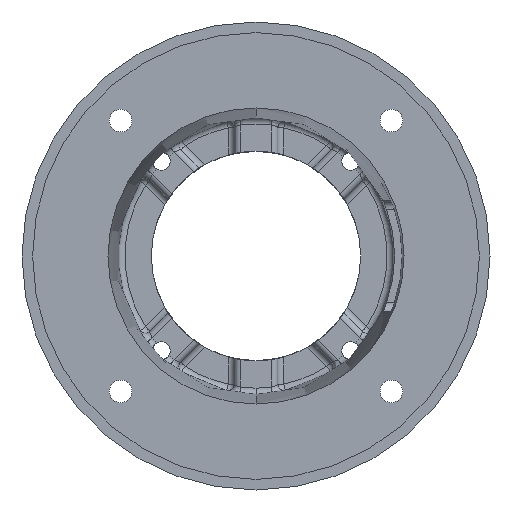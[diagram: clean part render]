
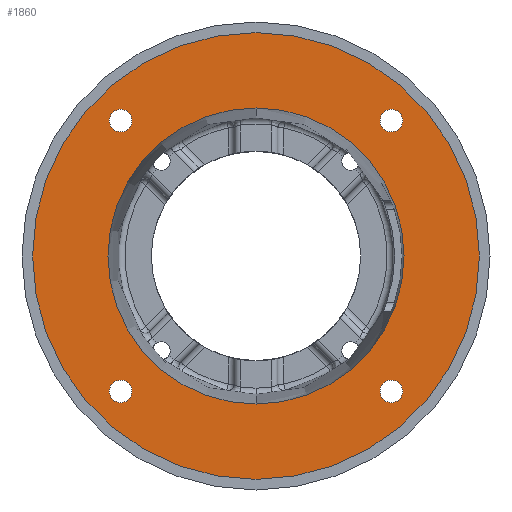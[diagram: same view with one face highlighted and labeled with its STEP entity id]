
A CAD part, front view. The second image highlights one B-rep face of the part: STEP entity #1860.
In plain terms, the highlighted planar face has unit normal (0, -1, 0).
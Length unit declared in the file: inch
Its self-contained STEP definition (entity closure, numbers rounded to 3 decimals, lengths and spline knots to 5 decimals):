
#164 = CARTESIAN_POINT ( 'NONE',  ( 0., 0.18, 5.2505 ) ) ;
#257 = EDGE_CURVE ( 'NONE', #416, #13633, #12006, .T. ) ;
#374 = EDGE_CURVE ( 'NONE', #4094, #7090, #7514, .T. ) ;
#416 = VERTEX_POINT ( 'NONE', #4542 ) ;
#774 = VERTEX_POINT ( 'NONE', #1982 ) ;
#949 = ORIENTED_EDGE ( 'NONE', *, *, #374, .F. ) ;
#958 = FACE_OUTER_BOUND ( 'NONE', #13080, .T. ) ;
#992 = DIRECTION ( 'NONE',  ( 0., -1., 0. ) ) ;
#1299 = AXIS2_PLACEMENT_3D ( 'NONE', #5394, #12907, #6510 ) ;
#1307 = FACE_BOUND ( 'NONE', #5261, .T. ) ;
#1529 = CARTESIAN_POINT ( 'NONE',  ( -3.18198, 0.18, 3.44761 ) ) ;
#1860 = ADVANCED_FACE ( 'NONE', ( #6964, #7664, #3977, #7305, #958, #1307 ), #14083, .T. ) ;
#1982 = CARTESIAN_POINT ( 'NONE',  ( -3.18198, 0.18, -2.91636 ) ) ;
#2226 = ORIENTED_EDGE ( 'NONE', *, *, #5489, .F. ) ;
#2268 = VERTEX_POINT ( 'NONE', #12394 ) ;
#2688 = AXIS2_PLACEMENT_3D ( 'NONE', #10977, #4440, #12021 ) ;
#2829 = CARTESIAN_POINT ( 'NONE',  ( 3.18198, 0.18, 3.18198 ) ) ;
#2887 = EDGE_LOOP ( 'NONE', ( #11291, #2226 ) ) ;
#2901 = ORIENTED_EDGE ( 'NONE', *, *, #4564, .T. ) ;
#3247 = ORIENTED_EDGE ( 'NONE', *, *, #4388, .F. ) ;
#3283 = CARTESIAN_POINT ( 'NONE',  ( 0., 0.18, 0. ) ) ;
#3494 = CARTESIAN_POINT ( 'NONE',  ( -3.18198, 0.18, -3.18198 ) ) ;
#3556 = CARTESIAN_POINT ( 'NONE',  ( 3.18198, 0.18, 3.44761 ) ) ;
#3951 = DIRECTION ( 'NONE',  ( 0., 0., -1. ) ) ;
#3977 = FACE_BOUND ( 'NONE', #2887, .T. ) ;
#4094 = VERTEX_POINT ( 'NONE', #10789 ) ;
#4208 = AXIS2_PLACEMENT_3D ( 'NONE', #6733, #14189, #7850 ) ;
#4343 = DIRECTION ( 'NONE',  ( 0., -1., 0. ) ) ;
#4388 = EDGE_CURVE ( 'NONE', #8800, #11322, #11557, .T. ) ;
#4423 = DIRECTION ( 'NONE',  ( 0., 0., -1. ) ) ;
#4440 = DIRECTION ( 'NONE',  ( 0., 1., 0. ) ) ;
#4542 = CARTESIAN_POINT ( 'NONE',  ( 0., 0.18, -5.2505 ) ) ;
#4560 = DIRECTION ( 'NONE',  ( 0., 0., -1. ) ) ;
#4564 = EDGE_CURVE ( 'NONE', #13633, #416, #8071, .T. ) ;
#4570 = DIRECTION ( 'NONE',  ( 0., -1., 0. ) ) ;
#4576 = CARTESIAN_POINT ( 'NONE',  ( -3.18198, 0.18, 3.18198 ) ) ;
#4579 = EDGE_CURVE ( 'NONE', #13755, #6116, #8730, .T. ) ;
#4636 = DIRECTION ( 'NONE',  ( 0., 0., -1. ) ) ;
#4664 = ORIENTED_EDGE ( 'NONE', *, *, #13564, .F. ) ;
#4727 = AXIS2_PLACEMENT_3D ( 'NONE', #11694, #5222, #12752 ) ;
#4778 = DIRECTION ( 'NONE',  ( 0., -1., 0. ) ) ;
#5052 = AXIS2_PLACEMENT_3D ( 'NONE', #6757, #6753, #6736 ) ;
#5222 = DIRECTION ( 'NONE',  ( 0., -1., 0. ) ) ;
#5250 = ORIENTED_EDGE ( 'NONE', *, *, #7968, .F. ) ;
#5261 = EDGE_LOOP ( 'NONE', ( #6907, #13690 ) ) ;
#5344 = VERTEX_POINT ( 'NONE', #13264 ) ;
#5378 = ORIENTED_EDGE ( 'NONE', *, *, #6610, .F. ) ;
#5394 = CARTESIAN_POINT ( 'NONE',  ( 3.18198, 0.18, -3.18198 ) ) ;
#5489 = EDGE_CURVE ( 'NONE', #5344, #2268, #8053, .T. ) ;
#5932 = VERTEX_POINT ( 'NONE', #13824 ) ;
#6116 = VERTEX_POINT ( 'NONE', #7881 ) ;
#6510 = DIRECTION ( 'NONE',  ( 0., 0., -1. ) ) ;
#6610 = EDGE_CURVE ( 'NONE', #7090, #4094, #8242, .T. ) ;
#6673 = DIRECTION ( 'NONE',  ( 0., 1., 0. ) ) ;
#6733 = CARTESIAN_POINT ( 'NONE',  ( -3.18198, 0.18, -3.18198 ) ) ;
#6736 = DIRECTION ( 'NONE',  ( 0., 0., -1. ) ) ;
#6753 = DIRECTION ( 'NONE',  ( 0., -1., 0. ) ) ;
#6757 = CARTESIAN_POINT ( 'NONE',  ( 0., 0.18, 0. ) ) ;
#6846 = CIRCLE ( 'NONE', #2688, 3.47973 ) ;
#6907 = ORIENTED_EDGE ( 'NONE', *, *, #13511, .T. ) ;
#6964 = FACE_BOUND ( 'NONE', #10957, .T. ) ;
#7050 = AXIS2_PLACEMENT_3D ( 'NONE', #2829, #10529, #3951 ) ;
#7083 = EDGE_LOOP ( 'NONE', ( #4664, #11424 ) ) ;
#7090 = VERTEX_POINT ( 'NONE', #1529 ) ;
#7305 = FACE_BOUND ( 'NONE', #7083, .T. ) ;
#7514 = CIRCLE ( 'NONE', #8734, 0.26562 ) ;
#7622 = ORIENTED_EDGE ( 'NONE', *, *, #257, .T. ) ;
#7664 = FACE_BOUND ( 'NONE', #8117, .T. ) ;
#7850 = DIRECTION ( 'NONE',  ( 0., 0., -1. ) ) ;
#7881 = CARTESIAN_POINT ( 'NONE',  ( 0., 0.18, -3.47973 ) ) ;
#7968 = EDGE_CURVE ( 'NONE', #11322, #8800, #11549, .T. ) ;
#8053 = CIRCLE ( 'NONE', #13534, 0.26562 ) ;
#8071 = CIRCLE ( 'NONE', #11277, 5.2505 ) ;
#8117 = EDGE_LOOP ( 'NONE', ( #3247, #5250 ) ) ;
#8242 = CIRCLE ( 'NONE', #11082, 0.26562 ) ;
#8730 = CIRCLE ( 'NONE', #12682, 3.47973 ) ;
#8734 = AXIS2_PLACEMENT_3D ( 'NONE', #4576, #4570, #4560 ) ;
#8800 = VERTEX_POINT ( 'NONE', #10592 ) ;
#8804 = DIRECTION ( 'NONE',  ( 0., 0., -1. ) ) ;
#9074 = AXIS2_PLACEMENT_3D ( 'NONE', #3494, #11158, #4636 ) ;
#9326 = CARTESIAN_POINT ( 'NONE',  ( 0., 0.18, 3.47973 ) ) ;
#9380 = CIRCLE ( 'NONE', #4208, 0.26562 ) ;
#9833 = CARTESIAN_POINT ( 'NONE',  ( 0., 0.18, 0. ) ) ;
#9853 = EDGE_CURVE ( 'NONE', #2268, #5344, #10633, .T. ) ;
#10416 = CIRCLE ( 'NONE', #9074, 0.26562 ) ;
#10529 = DIRECTION ( 'NONE',  ( 0., -1., 0. ) ) ;
#10592 = CARTESIAN_POINT ( 'NONE',  ( 3.18198, 0.18, 2.91636 ) ) ;
#10633 = CIRCLE ( 'NONE', #1299, 0.26562 ) ;
#10789 = CARTESIAN_POINT ( 'NONE',  ( -3.18198, 0.18, 2.91636 ) ) ;
#10886 = CARTESIAN_POINT ( 'NONE',  ( 3.18198, 0.18, -3.18198 ) ) ;
#10956 = DIRECTION ( 'NONE',  ( 0., -1., 0. ) ) ;
#10957 = EDGE_LOOP ( 'NONE', ( #949, #5378 ) ) ;
#10977 = CARTESIAN_POINT ( 'NONE',  ( 0., 0.18, 0. ) ) ;
#11082 = AXIS2_PLACEMENT_3D ( 'NONE', #11280, #4778, #12331 ) ;
#11158 = DIRECTION ( 'NONE',  ( 0., -1., 0. ) ) ;
#11277 = AXIS2_PLACEMENT_3D ( 'NONE', #3283, #10956, #4423 ) ;
#11280 = CARTESIAN_POINT ( 'NONE',  ( -3.18198, 0.18, 3.18198 ) ) ;
#11291 = ORIENTED_EDGE ( 'NONE', *, *, #9853, .F. ) ;
#11322 = VERTEX_POINT ( 'NONE', #3556 ) ;
#11424 = ORIENTED_EDGE ( 'NONE', *, *, #11733, .F. ) ;
#11549 = CIRCLE ( 'NONE', #7050, 0.26562 ) ;
#11557 = CIRCLE ( 'NONE', #4727, 0.26562 ) ;
#11694 = CARTESIAN_POINT ( 'NONE',  ( 3.18198, 0.18, 3.18198 ) ) ;
#11733 = EDGE_CURVE ( 'NONE', #774, #5932, #10416, .T. ) ;
#11932 = DIRECTION ( 'NONE',  ( 0., 0., -1. ) ) ;
#12006 = CIRCLE ( 'NONE', #5052, 5.2505 ) ;
#12021 = DIRECTION ( 'NONE',  ( 0., 0., -1. ) ) ;
#12331 = DIRECTION ( 'NONE',  ( 0., 0., -1. ) ) ;
#12394 = CARTESIAN_POINT ( 'NONE',  ( 3.18198, 0.18, -3.44761 ) ) ;
#12682 = AXIS2_PLACEMENT_3D ( 'NONE', #13061, #6673, #14136 ) ;
#12752 = DIRECTION ( 'NONE',  ( 0., 0., -1. ) ) ;
#12907 = DIRECTION ( 'NONE',  ( 0., -1., 0. ) ) ;
#13061 = CARTESIAN_POINT ( 'NONE',  ( 0., 0.18, 0. ) ) ;
#13080 = EDGE_LOOP ( 'NONE', ( #7622, #2901 ) ) ;
#13264 = CARTESIAN_POINT ( 'NONE',  ( 3.18198, 0.18, -2.91636 ) ) ;
#13344 = AXIS2_PLACEMENT_3D ( 'NONE', #9833, #992, #8804 ) ;
#13511 = EDGE_CURVE ( 'NONE', #6116, #13755, #6846, .T. ) ;
#13534 = AXIS2_PLACEMENT_3D ( 'NONE', #10886, #4343, #11932 ) ;
#13564 = EDGE_CURVE ( 'NONE', #5932, #774, #9380, .T. ) ;
#13633 = VERTEX_POINT ( 'NONE', #164 ) ;
#13690 = ORIENTED_EDGE ( 'NONE', *, *, #4579, .T. ) ;
#13755 = VERTEX_POINT ( 'NONE', #9326 ) ;
#13824 = CARTESIAN_POINT ( 'NONE',  ( -3.18198, 0.18, -3.44761 ) ) ;
#14083 = PLANE ( 'NONE',  #13344 ) ;
#14136 = DIRECTION ( 'NONE',  ( 0., 0., -1. ) ) ;
#14189 = DIRECTION ( 'NONE',  ( 0., -1., 0. ) ) ;
